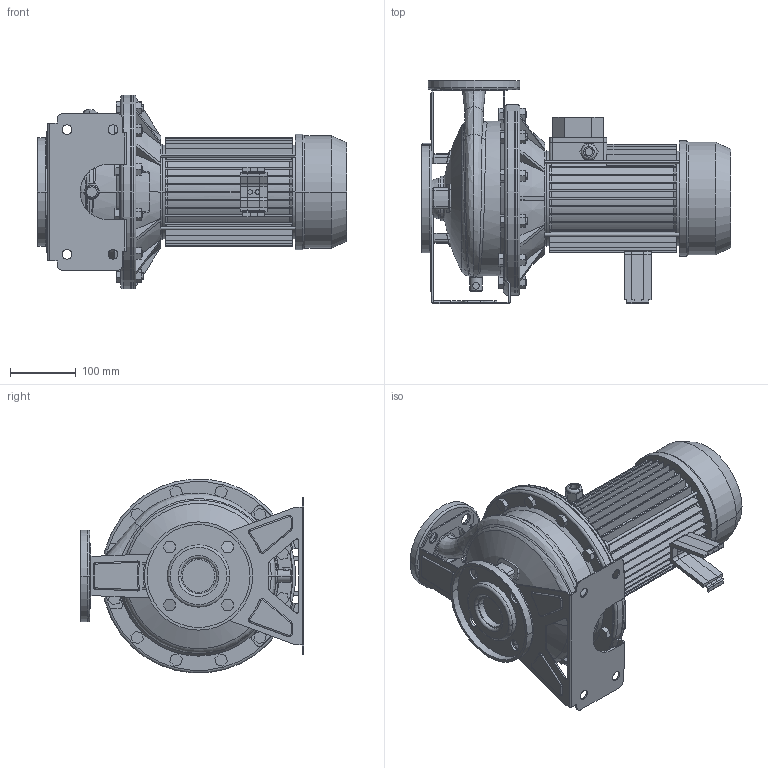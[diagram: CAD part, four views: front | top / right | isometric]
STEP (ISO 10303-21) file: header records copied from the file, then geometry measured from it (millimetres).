
FILE_DESCRIPTION((''),'2;1');
FILE_NAME('3M_32-200_3_IE3_ASM','2016-09-16T',('rosa'),('"Ebara Pumps Europe +39.444.706811"'),'PRO/ENGINEER BY PARAMETRIC TECHNOLOGY CORPORATION, 2012130','PRO/ENGINEER BY PARAMETRIC TECHNOLOGY CORPORATION, 2012130','');
FILE_SCHEMA(('AUTOMOTIVE_DESIGN { 1 0 10303 214 1 1 1 1 }'));
Length unit declared in the file: millimetre
Products named in the file (11): CORPO_32-200_AF0; ASP_32-200; FLANGIA_DIN_50; MAND_32-200; FLANGIA_DIN_32; BASE_3M_32-200; CORPO_SALDATO_32-200_ASM; SUPPORTO_3M_230_90; MEC_90X160_IE3; SOSTEGNO_72006; 3M_32-200_3_IE3_ASM
Assembly tree (11 placements, depth 3):
  3M_32-200_3_IE3_ASM
    CORPO_SALDATO_32-200_ASM
      CORPO_32-200_AF0
      ASP_32-200
      FLANGIA_DIN_50
      MAND_32-200
      FLANGIA_DIN_32
      BASE_3M_32-200
    SUPPORTO_3M_230_90
    MEC_90X160_IE3
    SOSTEGNO_72006  x2
Bounding box: 471 x 340 x 295.13 mm (x, y, z)
Volume: 9439418.4 mm3; surface area: 1214917.9 mm2
Topology: 13 solids, 13 shells, 1163 faces, 2958 edges, 1895 vertices
Faces by surface type: plane 635, cylinder 339, cone 90, torus 60, bspline 33, sphere 6
Entity records: 47981 total; most frequent: CARTESIAN_POINT 9347, DIRECTION 5884, ORIENTED_EDGE 5748, PRESENTATION_STYLE_ASSIGNMENT 2886, STYLED_ITEM 2886, CURVE_STYLE 2874, EDGE_CURVE 2874, AXIS2_PLACEMENT_3D 2126
